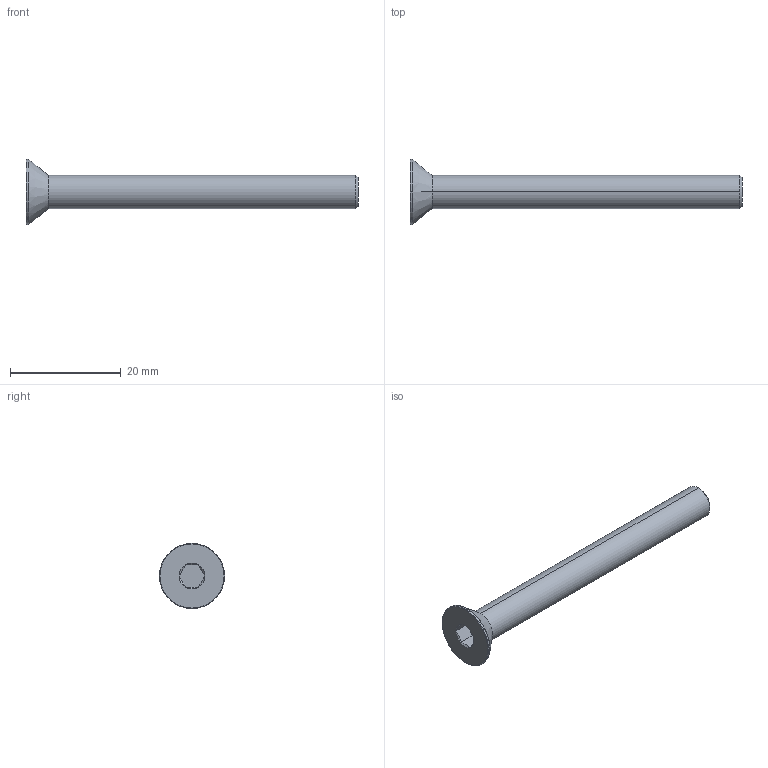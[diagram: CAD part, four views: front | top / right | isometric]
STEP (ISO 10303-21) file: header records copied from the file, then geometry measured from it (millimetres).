
FILE_DESCRIPTION (( 'STEP AP203' ), '1' );
FILE_NAME ('LGDB-304-M6x60.STEP', '2026-08-12T01:37:30', ( '' ), ( '' ), 'SwSTEP 2.0', 'SolidWorks 2020', '' );
FILE_SCHEMA (( 'CONFIG_CONTROL_DESIGN' ));
Length unit declared in the file: millimetre
Products named in the file (1): LGDB-304-M6x60
Bounding box: 60 x 11.8 x 11.8 mm (x, y, z)
Volume: 1820.1 mm3; surface area: 1372.6 mm2
Topology: 1 solids, 1 shells, 28 faces, 53 edges, 28 vertices
Faces by surface type: cone 11, plane 9, torus 4, cylinder 4
Entity records: 796 total; most frequent: CARTESIAN_POINT 157, DIRECTION 129, ORIENTED_EDGE 106, AXIS2_PLACEMENT_3D 54, EDGE_CURVE 53, EDGE_LOOP 29, VERTEX_POINT 28, ADVANCED_FACE 28
